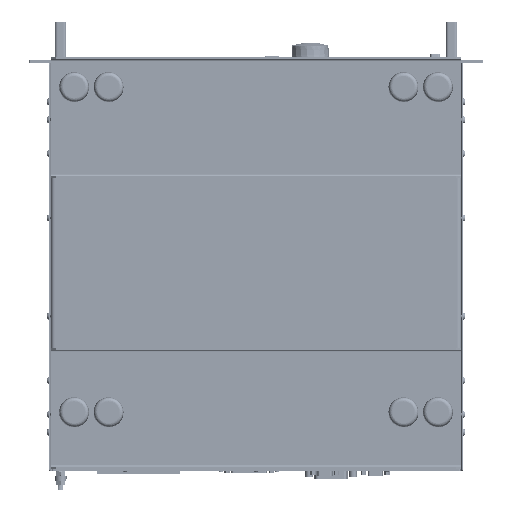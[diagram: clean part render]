
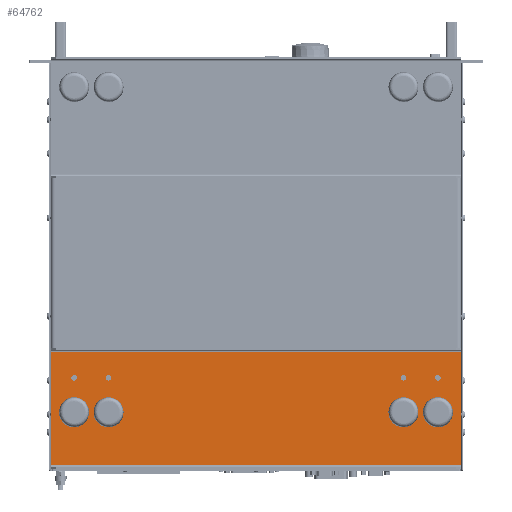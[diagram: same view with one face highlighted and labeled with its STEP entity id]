
A CAD part, front view. The second image highlights one B-rep face of the part: STEP entity #64762.
In plain terms, the highlighted planar face has unit normal (0, -1, 0).
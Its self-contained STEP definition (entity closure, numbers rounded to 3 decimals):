
#64762=ADVANCED_FACE('',(#132820,#132821,#132822,#132823,#132824,#132825,#132826,#132827,#132828),#132829,.T.);
#132820=FACE_OUTER_BOUND('',#229850,.T.);
#132821=FACE_BOUND('',#229851,.T.);
#132822=FACE_BOUND('',#229852,.T.);
#132823=FACE_BOUND('',#229853,.T.);
#132824=FACE_BOUND('',#229854,.T.);
#132825=FACE_BOUND('',#229855,.T.);
#132826=FACE_BOUND('',#229856,.T.);
#132827=FACE_BOUND('',#229857,.T.);
#132828=FACE_BOUND('',#229858,.T.);
#132829=PLANE('',#229859);
#229850=EDGE_LOOP('',(#417390,#417391,#417392,#417393));
#229851=EDGE_LOOP('',(#417394,#417395));
#229852=EDGE_LOOP('',(#417396,#417397));
#229853=EDGE_LOOP('',(#417398,#417399));
#229854=EDGE_LOOP('',(#417400,#417401));
#229855=EDGE_LOOP('',(#417402,#417403));
#229856=EDGE_LOOP('',(#417404,#417405));
#229857=EDGE_LOOP('',(#417406,#417407));
#229858=EDGE_LOOP('',(#417408,#417409));
#229859=AXIS2_PLACEMENT_3D('',#417410,#417411,#417412);
#417390=ORIENTED_EDGE('',*,*,#496208,.F.);
#417391=ORIENTED_EDGE('',*,*,#496238,.T.);
#417392=ORIENTED_EDGE('',*,*,#496212,.F.);
#417393=ORIENTED_EDGE('',*,*,#496290,.T.);
#417394=ORIENTED_EDGE('',*,*,#496185,.T.);
#417395=ORIENTED_EDGE('',*,*,#496274,.T.);
#417396=ORIENTED_EDGE('',*,*,#496180,.T.);
#417397=ORIENTED_EDGE('',*,*,#496276,.T.);
#417398=ORIENTED_EDGE('',*,*,#496175,.T.);
#417399=ORIENTED_EDGE('',*,*,#496278,.T.);
#417400=ORIENTED_EDGE('',*,*,#496170,.T.);
#417401=ORIENTED_EDGE('',*,*,#496280,.T.);
#417402=ORIENTED_EDGE('',*,*,#496165,.T.);
#417403=ORIENTED_EDGE('',*,*,#496282,.T.);
#417404=ORIENTED_EDGE('',*,*,#496160,.T.);
#417405=ORIENTED_EDGE('',*,*,#496284,.T.);
#417406=ORIENTED_EDGE('',*,*,#496155,.T.);
#417407=ORIENTED_EDGE('',*,*,#496286,.T.);
#417408=ORIENTED_EDGE('',*,*,#496150,.T.);
#417409=ORIENTED_EDGE('',*,*,#496288,.T.);
#417410=CARTESIAN_POINT('',(241.303,14.998,-555.231));
#417411=DIRECTION('',(0.,-1.0,0.));
#417412=DIRECTION('',(-1.0,0.,0.));
#496150=EDGE_CURVE('',#604193,#604197,#604199,.T.);
#496155=EDGE_CURVE('',#604202,#604206,#604208,.T.);
#496160=EDGE_CURVE('',#604211,#604215,#604217,.T.);
#496165=EDGE_CURVE('',#604220,#604224,#604226,.T.);
#496170=EDGE_CURVE('',#604229,#604233,#604235,.T.);
#496175=EDGE_CURVE('',#604238,#604242,#604244,.T.);
#496180=EDGE_CURVE('',#604247,#604251,#604253,.T.);
#496185=EDGE_CURVE('',#604256,#604260,#604262,.T.);
#496208=EDGE_CURVE('',#604300,#604302,#604303,.T.);
#496212=EDGE_CURVE('',#604306,#604308,#604309,.T.);
#496238=EDGE_CURVE('',#604300,#604308,#604348,.T.);
#496274=EDGE_CURVE('',#604260,#604256,#604391,.T.);
#496276=EDGE_CURVE('',#604251,#604247,#604393,.T.);
#496278=EDGE_CURVE('',#604242,#604238,#604395,.T.);
#496280=EDGE_CURVE('',#604233,#604229,#604397,.T.);
#496282=EDGE_CURVE('',#604224,#604220,#604399,.T.);
#496284=EDGE_CURVE('',#604215,#604211,#604401,.T.);
#496286=EDGE_CURVE('',#604206,#604202,#604403,.T.);
#496288=EDGE_CURVE('',#604197,#604193,#604405,.T.);
#496290=EDGE_CURVE('',#604306,#604302,#604407,.T.);
#604193=VERTEX_POINT('',#755835);
#604197=VERTEX_POINT('',#755840);
#604199=CIRCLE('',#755843,3.0);
#604202=VERTEX_POINT('',#755846);
#604206=VERTEX_POINT('',#755851);
#604208=CIRCLE('',#755854,3.0);
#604211=VERTEX_POINT('',#755857);
#604215=VERTEX_POINT('',#755862);
#604217=CIRCLE('',#755865,3.0);
#604220=VERTEX_POINT('',#755868);
#604224=VERTEX_POINT('',#755873);
#604226=CIRCLE('',#755876,3.0);
#604229=VERTEX_POINT('',#755879);
#604233=VERTEX_POINT('',#755884);
#604235=CIRCLE('',#755887,3.0);
#604238=VERTEX_POINT('',#755890);
#604242=VERTEX_POINT('',#755895);
#604244=CIRCLE('',#755898,3.0);
#604247=VERTEX_POINT('',#755901);
#604251=VERTEX_POINT('',#755906);
#604253=CIRCLE('',#755909,3.0);
#604256=VERTEX_POINT('',#755912);
#604260=VERTEX_POINT('',#755917);
#604262=CIRCLE('',#755920,3.0);
#604300=VERTEX_POINT('',#755966);
#604302=VERTEX_POINT('',#755968);
#604303=LINE('',#755969,#755970);
#604306=VERTEX_POINT('',#755973);
#604308=VERTEX_POINT('',#755975);
#604309=LINE('',#755976,#755977);
#604348=LINE('',#756031,#756032);
#604391=CIRCLE('',#756092,3.0);
#604393=CIRCLE('',#756094,3.0);
#604395=CIRCLE('',#756096,3.0);
#604397=CIRCLE('',#756098,3.0);
#604399=CIRCLE('',#756100,3.0);
#604401=CIRCLE('',#756102,3.0);
#604403=CIRCLE('',#756104,3.0);
#604405=CIRCLE('',#756106,3.0);
#604407=LINE('',#756108,#756109);
#755835=CARTESIAN_POINT('',(431.73,14.998,-559.388));
#755840=CARTESIAN_POINT('',(437.73,14.998,-559.388));
#755843=AXIS2_PLACEMENT_3D('',#840024,#840025,#840026);
#755846=CARTESIAN_POINT('',(395.102,14.998,-559.388));
#755851=CARTESIAN_POINT('',(401.102,14.998,-559.388));
#755854=AXIS2_PLACEMENT_3D('',#840032,#840033,#840034);
#755857=CARTESIAN_POINT('',(431.73,14.998,-522.76));
#755862=CARTESIAN_POINT('',(437.73,14.998,-522.76));
#755865=AXIS2_PLACEMENT_3D('',#840040,#840041,#840042);
#755868=CARTESIAN_POINT('',(395.102,14.998,-522.76));
#755873=CARTESIAN_POINT('',(401.102,14.998,-522.76));
#755876=AXIS2_PLACEMENT_3D('',#840048,#840049,#840050);
#755879=CARTESIAN_POINT('',(81.503,14.998,-559.388));
#755884=CARTESIAN_POINT('',(87.503,14.998,-559.388));
#755887=AXIS2_PLACEMENT_3D('',#840056,#840057,#840058);
#755890=CARTESIAN_POINT('',(44.875,14.998,-559.388));
#755895=CARTESIAN_POINT('',(50.875,14.998,-559.388));
#755898=AXIS2_PLACEMENT_3D('',#840064,#840065,#840066);
#755901=CARTESIAN_POINT('',(81.503,14.998,-522.76));
#755906=CARTESIAN_POINT('',(87.503,14.998,-522.76));
#755909=AXIS2_PLACEMENT_3D('',#840072,#840073,#840074);
#755912=CARTESIAN_POINT('',(44.875,14.998,-522.76));
#755917=CARTESIAN_POINT('',(50.875,14.998,-522.76));
#755920=AXIS2_PLACEMENT_3D('',#840080,#840081,#840082);
#755966=CARTESIAN_POINT('',(459.73,14.998,-615.388));
#755968=CARTESIAN_POINT('',(22.875,14.998,-615.388));
#755969=CARTESIAN_POINT('',(241.303,14.998,-615.388));
#755970=VECTOR('',#840118,1.0);
#755973=CARTESIAN_POINT('',(22.875,14.998,-495.074));
#755975=CARTESIAN_POINT('',(459.73,14.998,-495.074));
#755976=CARTESIAN_POINT('',(241.303,14.998,-495.074));
#755977=VECTOR('',#840125,1.0);
#756031=CARTESIAN_POINT('',(459.73,14.998,-555.231));
#756032=VECTOR('',#840156,1.0);
#756092=AXIS2_PLACEMENT_3D('',#840198,#840199,#840200);
#756094=AXIS2_PLACEMENT_3D('',#840201,#840202,#840203);
#756096=AXIS2_PLACEMENT_3D('',#840204,#840205,#840206);
#756098=AXIS2_PLACEMENT_3D('',#840207,#840208,#840209);
#756100=AXIS2_PLACEMENT_3D('',#840210,#840211,#840212);
#756102=AXIS2_PLACEMENT_3D('',#840213,#840214,#840215);
#756104=AXIS2_PLACEMENT_3D('',#840216,#840217,#840218);
#756106=AXIS2_PLACEMENT_3D('',#840219,#840220,#840221);
#756108=CARTESIAN_POINT('',(22.875,14.998,-555.231));
#756109=VECTOR('',#840222,1.0);
#840024=CARTESIAN_POINT('',(434.73,14.998,-559.388));
#840025=DIRECTION('',(0.,1.0,0.));
#840026=DIRECTION('',(-1.0,0.,0.));
#840032=CARTESIAN_POINT('',(398.102,14.998,-559.388));
#840033=DIRECTION('',(0.,1.0,0.));
#840034=DIRECTION('',(-1.0,0.,0.));
#840040=CARTESIAN_POINT('',(434.73,14.998,-522.76));
#840041=DIRECTION('',(0.,1.0,0.));
#840042=DIRECTION('',(-1.0,0.,0.));
#840048=CARTESIAN_POINT('',(398.102,14.998,-522.76));
#840049=DIRECTION('',(0.,1.0,0.));
#840050=DIRECTION('',(-1.0,0.,0.));
#840056=CARTESIAN_POINT('',(84.503,14.998,-559.388));
#840057=DIRECTION('',(0.,1.0,0.));
#840058=DIRECTION('',(-1.0,0.,0.));
#840064=CARTESIAN_POINT('',(47.875,14.998,-559.388));
#840065=DIRECTION('',(0.,1.0,0.));
#840066=DIRECTION('',(-1.0,0.,0.));
#840072=CARTESIAN_POINT('',(84.503,14.998,-522.76));
#840073=DIRECTION('',(0.,1.0,0.));
#840074=DIRECTION('',(-1.0,0.,0.));
#840080=CARTESIAN_POINT('',(47.875,14.998,-522.76));
#840081=DIRECTION('',(0.,1.0,0.));
#840082=DIRECTION('',(-1.0,0.,0.));
#840118=DIRECTION('',(-1.0,0.,0.));
#840125=DIRECTION('',(1.0,0.,0.));
#840156=DIRECTION('',(0.,0.,1.0));
#840198=CARTESIAN_POINT('',(47.875,14.998,-522.76));
#840199=DIRECTION('',(0.,1.0,0.));
#840200=DIRECTION('',(-1.0,0.,0.));
#840201=CARTESIAN_POINT('',(84.503,14.998,-522.76));
#840202=DIRECTION('',(0.,1.0,0.));
#840203=DIRECTION('',(-1.0,0.,0.));
#840204=CARTESIAN_POINT('',(47.875,14.998,-559.388));
#840205=DIRECTION('',(0.,1.0,0.));
#840206=DIRECTION('',(-1.0,0.,0.));
#840207=CARTESIAN_POINT('',(84.503,14.998,-559.388));
#840208=DIRECTION('',(0.,1.0,0.));
#840209=DIRECTION('',(-1.0,0.,0.));
#840210=CARTESIAN_POINT('',(398.102,14.998,-522.76));
#840211=DIRECTION('',(0.,1.0,0.));
#840212=DIRECTION('',(-1.0,0.,0.));
#840213=CARTESIAN_POINT('',(434.73,14.998,-522.76));
#840214=DIRECTION('',(0.,1.0,0.));
#840215=DIRECTION('',(-1.0,0.,0.));
#840216=CARTESIAN_POINT('',(398.102,14.998,-559.388));
#840217=DIRECTION('',(0.,1.0,0.));
#840218=DIRECTION('',(-1.0,0.,0.));
#840219=CARTESIAN_POINT('',(434.73,14.998,-559.388));
#840220=DIRECTION('',(0.,1.0,0.));
#840221=DIRECTION('',(-1.0,0.,0.));
#840222=DIRECTION('',(0.,0.,-1.0));
